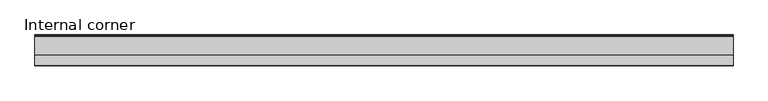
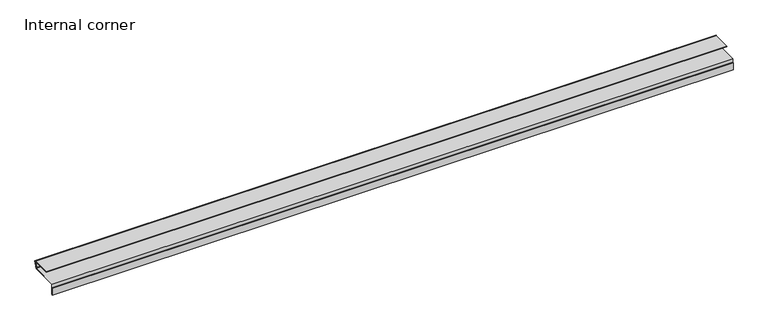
"""IFC4 building model written with IfcOpenShell, lengths in millimetres: beam geometry, TE-H-05_02_Internal corner i_BEAM : Internal corner."""

from ifc_helpers import new_model, si_unit, frame, origin, place, context, project, spatial, polyline, outline, extrude, source, transform, mapped, element, save


def internal_corner_91954f82(model_context):
    return source(origin(), model_context, "Body", "SweptSolid", [
        extrude(outline(polyline([(80.4617197, -2.4), (30.9830098, -2.4), (30.9830098, -1.6), (81.5043, -1.6), (77.4870945, -16.592415), (76.7143538, -16.3853598), (80.4617197, -2.4)])), frame((-958.4929443, 0.0, 0.0), z_axis=(1.0, 0.0, 0.0), x_axis=(0.0, 1.0, 0.0)), (0.0, 0.0, 1.0), 1878.4929443),
        extrude(outline(polyline([(77.1994161, -18.4469826), (81.9616865, -0.6739474), (84.6662789, -1.3986408), (79.3069308, -21.4), (4.4, -21.4), (4.4, -51.4), (1.6, -51.4), (1.6, -31.0), (2.4, -31.0), (2.4, -50.6), (3.6, -50.6), (3.6, -20.6), (78.6930692, -20.6), (83.686483, -1.9643262), (82.527372, -1.6537433), (77.9721568, -18.6540379), (77.1994161, -18.4469826)])), frame((-958.4929443, 0.0, 0.0), z_axis=(1.0, 0.0, 0.0), x_axis=(0.0, 1.0, 0.0)), (0.0, 0.0, 1.0), 1878.4929443),
    ])


if __name__ == "__main__":
    model = new_model("IFC4")
    model_context = context("Model", 3, world=origin())
    ifc_project = project(units=[si_unit("LENGTHUNIT", "METRE", prefix="MILLI")], contexts=[model_context])
    site = spatial("IfcSite", under=ifc_project)
    building = spatial("IfcBuilding", under=site)
    placement = place(None, origin())
    internal_corner_shape = internal_corner_91954f82(model_context)
    element("IfcBeam", 1, ObjectType="TE-H-05_02_Internal corner i_BEAM : Internal corner", at=placement, inside=building, context=model_context, shape_type="MappedRepresentation", body=[
        mapped(internal_corner_shape, transform((0.0, 0.0, 0.0), x_axis=(1.0, 0.0, 0.0), y_axis=(0.0, 1.0, 0.0), z_axis=(0.0, 0.0, 1.0))),
    ])
    save(model, "model.ifc")
